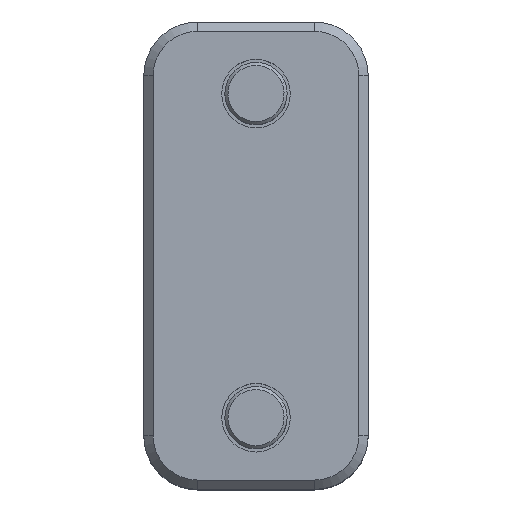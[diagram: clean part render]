
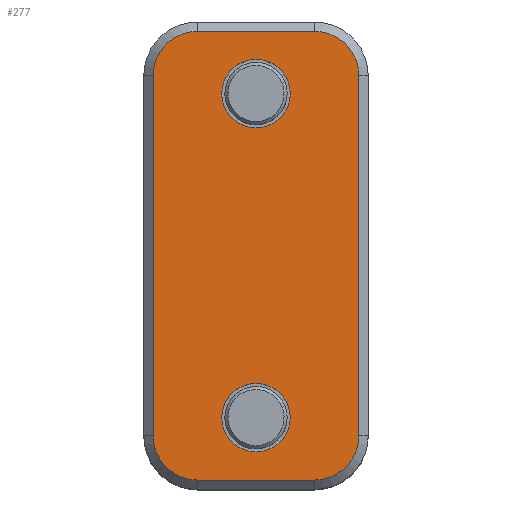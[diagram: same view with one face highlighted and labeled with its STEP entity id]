
A CAD part, top view. The second image highlights one B-rep face of the part: STEP entity #277.
In plain terms, the highlighted planar face has unit normal (0, 0, 1).
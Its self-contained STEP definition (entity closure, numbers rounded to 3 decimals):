
#6 = ORIENTED_EDGE ( 'NONE', *, *, #611, .T. ) ;
#47 = ORIENTED_EDGE ( 'NONE', *, *, #4641, .T. ) ;
#58 = VERTEX_POINT ( 'NONE', #7821 ) ;
#174 = EDGE_CURVE ( 'NONE', #10541, #3221, #8964, .T. ) ;
#277 = ADVANCED_FACE ( 'NONE', ( #1687, #10745, #7693 ), #3049, .F. ) ;
#428 = DIRECTION ( 'NONE',  ( 1., 0., 0. ) ) ;
#492 = DIRECTION ( 'NONE',  ( -1., 0., 0. ) ) ;
#566 = DIRECTION ( 'NONE',  ( -1., 0., 0. ) ) ;
#601 = CARTESIAN_POINT ( 'NONE',  ( 0., -20.5, 20. ) ) ;
#611 = EDGE_CURVE ( 'NONE', #3221, #58, #10736, .T. ) ;
#670 = CARTESIAN_POINT ( 'NONE',  ( 0., -26., 20. ) ) ;
#705 = EDGE_LOOP ( 'NONE', ( #6, #5355, #8350, #9651, #11213, #9900, #7907, #1768 ) ) ;
#906 = CARTESIAN_POINT ( 'NONE',  ( -9.4, -36., 20. ) ) ;
#1035 = VERTEX_POINT ( 'NONE', #10882 ) ;
#1038 = DIRECTION ( 'NONE',  ( 0., 0., -1. ) ) ;
#1206 = CARTESIAN_POINT ( 'NONE',  ( -16.5, 28.9, 20. ) ) ;
#1306 = EDGE_CURVE ( 'NONE', #2704, #7438, #2892, .T. ) ;
#1308 = AXIS2_PLACEMENT_3D ( 'NONE', #6730, #11042, #566 ) ;
#1528 = ORIENTED_EDGE ( 'NONE', *, *, #4091, .T. ) ;
#1571 = DIRECTION ( 'NONE',  ( 0., 1., 0. ) ) ;
#1592 = CIRCLE ( 'NONE', #8597, 5.5 ) ;
#1687 = FACE_OUTER_BOUND ( 'NONE', #705, .T. ) ;
#1768 = ORIENTED_EDGE ( 'NONE', *, *, #174, .T. ) ;
#1881 = CARTESIAN_POINT ( 'NONE',  ( 0., 31.5, 20. ) ) ;
#2130 = EDGE_LOOP ( 'NONE', ( #1528, #47 ) ) ;
#2225 = CARTESIAN_POINT ( 'NONE',  ( 18., -36., 20. ) ) ;
#2272 = CARTESIAN_POINT ( 'NONE',  ( 16.5, -37.5, 20. ) ) ;
#2396 = EDGE_CURVE ( 'NONE', #7438, #3682, #8078, .T. ) ;
#2433 = DIRECTION ( 'NONE',  ( 0., 0., -1. ) ) ;
#2522 = CARTESIAN_POINT ( 'NONE',  ( 0., 20.5, 20. ) ) ;
#2571 = DIRECTION ( 'NONE',  ( -1., 0., 0. ) ) ;
#2592 = CIRCLE ( 'NONE', #4893, 7.1 ) ;
#2648 = CARTESIAN_POINT ( 'NONE',  ( 9.4, 28.9, 20. ) ) ;
#2704 = VERTEX_POINT ( 'NONE', #8634 ) ;
#2892 = CIRCLE ( 'NONE', #7092, 7.1 ) ;
#3049 = PLANE ( 'NONE',  #8265 ) ;
#3182 = CIRCLE ( 'NONE', #9311, 5.5 ) ;
#3221 = VERTEX_POINT ( 'NONE', #5204 ) ;
#3451 = CARTESIAN_POINT ( 'NONE',  ( 18., 36., 20. ) ) ;
#3595 = CIRCLE ( 'NONE', #4811, 7.1 ) ;
#3682 = VERTEX_POINT ( 'NONE', #6032 ) ;
#3849 = CARTESIAN_POINT ( 'NONE',  ( 9.4, 36., 20. ) ) ;
#4091 = EDGE_CURVE ( 'NONE', #10364, #8788, #6108, .T. ) ;
#4236 = DIRECTION ( 'NONE',  ( 0., 0., -1. ) ) ;
#4271 = DIRECTION ( 'NONE',  ( -1., 0., 0. ) ) ;
#4356 = ORIENTED_EDGE ( 'NONE', *, *, #9016, .T. ) ;
#4550 = VECTOR ( 'NONE', #428, 1000. ) ;
#4641 = EDGE_CURVE ( 'NONE', #8788, #10364, #1592, .T. ) ;
#4666 = LINE ( 'NONE', #4890, #7001 ) ;
#4763 = CARTESIAN_POINT ( 'NONE',  ( 18., -37.5, 20. ) ) ;
#4811 = AXIS2_PLACEMENT_3D ( 'NONE', #8025, #10647, #10680 ) ;
#4890 = CARTESIAN_POINT ( 'NONE',  ( -16.5, -28.9, 20. ) ) ;
#4893 = AXIS2_PLACEMENT_3D ( 'NONE', #5985, #9536, #4271 ) ;
#4984 = CIRCLE ( 'NONE', #6186, 5.5 ) ;
#5113 = VECTOR ( 'NONE', #6666, 1000. ) ;
#5204 = CARTESIAN_POINT ( 'NONE',  ( 9.4, -36., 20. ) ) ;
#5280 = DIRECTION ( 'NONE',  ( 0., 0., 1. ) ) ;
#5304 = EDGE_LOOP ( 'NONE', ( #4356, #8396 ) ) ;
#5355 = ORIENTED_EDGE ( 'NONE', *, *, #5685, .T. ) ;
#5387 = CARTESIAN_POINT ( 'NONE',  ( 0., 26., 20. ) ) ;
#5685 = EDGE_CURVE ( 'NONE', #58, #2704, #10077, .T. ) ;
#5728 = VECTOR ( 'NONE', #9716, 1000. ) ;
#5741 = DIRECTION ( 'NONE',  ( 0., 0., -1. ) ) ;
#5985 = CARTESIAN_POINT ( 'NONE',  ( -9.4, -28.9, 20. ) ) ;
#6032 = CARTESIAN_POINT ( 'NONE',  ( -9.4, 36., 20. ) ) ;
#6108 = CIRCLE ( 'NONE', #9052, 5.5 ) ;
#6186 = AXIS2_PLACEMENT_3D ( 'NONE', #7757, #4236, #6884 ) ;
#6551 = EDGE_CURVE ( 'NONE', #8820, #6691, #4984, .T. ) ;
#6666 = DIRECTION ( 'NONE',  ( 0., 1., 0. ) ) ;
#6691 = VERTEX_POINT ( 'NONE', #1881 ) ;
#6730 = CARTESIAN_POINT ( 'NONE',  ( 9.4, -28.9, 20. ) ) ;
#6884 = DIRECTION ( 'NONE',  ( 0., 1., 0. ) ) ;
#6931 = CARTESIAN_POINT ( 'NONE',  ( 0., -31.5, 20. ) ) ;
#7001 = VECTOR ( 'NONE', #9281, 1000. ) ;
#7092 = AXIS2_PLACEMENT_3D ( 'NONE', #2648, #5280, #2571 ) ;
#7438 = VERTEX_POINT ( 'NONE', #3849 ) ;
#7693 = FACE_BOUND ( 'NONE', #2130, .T. ) ;
#7757 = CARTESIAN_POINT ( 'NONE',  ( 0., 26., 20. ) ) ;
#7821 = CARTESIAN_POINT ( 'NONE',  ( 16.5, -28.9, 20. ) ) ;
#7907 = ORIENTED_EDGE ( 'NONE', *, *, #9467, .T. ) ;
#7962 = DIRECTION ( 'NONE',  ( 0., 1., 0. ) ) ;
#8025 = CARTESIAN_POINT ( 'NONE',  ( -9.4, 28.9, 20. ) ) ;
#8078 = LINE ( 'NONE', #3451, #5728 ) ;
#8099 = VERTEX_POINT ( 'NONE', #1206 ) ;
#8265 = AXIS2_PLACEMENT_3D ( 'NONE', #4763, #10110, #492 ) ;
#8350 = ORIENTED_EDGE ( 'NONE', *, *, #1306, .T. ) ;
#8367 = EDGE_CURVE ( 'NONE', #3682, #8099, #3595, .T. ) ;
#8396 = ORIENTED_EDGE ( 'NONE', *, *, #6551, .T. ) ;
#8597 = AXIS2_PLACEMENT_3D ( 'NONE', #10098, #5741, #10915 ) ;
#8634 = CARTESIAN_POINT ( 'NONE',  ( 16.5, 28.9, 20. ) ) ;
#8788 = VERTEX_POINT ( 'NONE', #6931 ) ;
#8820 = VERTEX_POINT ( 'NONE', #2522 ) ;
#8964 = LINE ( 'NONE', #2225, #4550 ) ;
#9016 = EDGE_CURVE ( 'NONE', #6691, #8820, #3182, .T. ) ;
#9052 = AXIS2_PLACEMENT_3D ( 'NONE', #670, #2433, #1571 ) ;
#9183 = EDGE_CURVE ( 'NONE', #8099, #1035, #4666, .T. ) ;
#9281 = DIRECTION ( 'NONE',  ( 0., -1., 0. ) ) ;
#9311 = AXIS2_PLACEMENT_3D ( 'NONE', #5387, #1038, #7962 ) ;
#9467 = EDGE_CURVE ( 'NONE', #1035, #10541, #2592, .T. ) ;
#9536 = DIRECTION ( 'NONE',  ( 0., 0., 1. ) ) ;
#9651 = ORIENTED_EDGE ( 'NONE', *, *, #2396, .T. ) ;
#9716 = DIRECTION ( 'NONE',  ( -1., 0., 0. ) ) ;
#9900 = ORIENTED_EDGE ( 'NONE', *, *, #9183, .T. ) ;
#10077 = LINE ( 'NONE', #2272, #5113 ) ;
#10098 = CARTESIAN_POINT ( 'NONE',  ( 0., -26., 20. ) ) ;
#10110 = DIRECTION ( 'NONE',  ( 0., 0., -1. ) ) ;
#10364 = VERTEX_POINT ( 'NONE', #601 ) ;
#10541 = VERTEX_POINT ( 'NONE', #906 ) ;
#10647 = DIRECTION ( 'NONE',  ( 0., 0., 1. ) ) ;
#10680 = DIRECTION ( 'NONE',  ( -1., 0., 0. ) ) ;
#10736 = CIRCLE ( 'NONE', #1308, 7.1 ) ;
#10745 = FACE_BOUND ( 'NONE', #5304, .T. ) ;
#10882 = CARTESIAN_POINT ( 'NONE',  ( -16.5, -28.9, 20. ) ) ;
#10915 = DIRECTION ( 'NONE',  ( 0., 1., 0. ) ) ;
#11042 = DIRECTION ( 'NONE',  ( 0., 0., 1. ) ) ;
#11213 = ORIENTED_EDGE ( 'NONE', *, *, #8367, .T. ) ;
